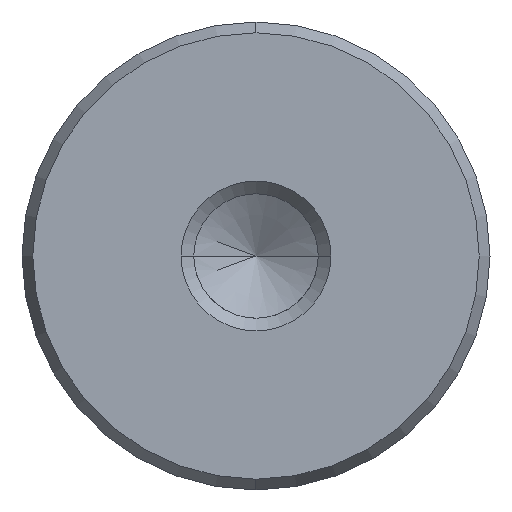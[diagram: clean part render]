
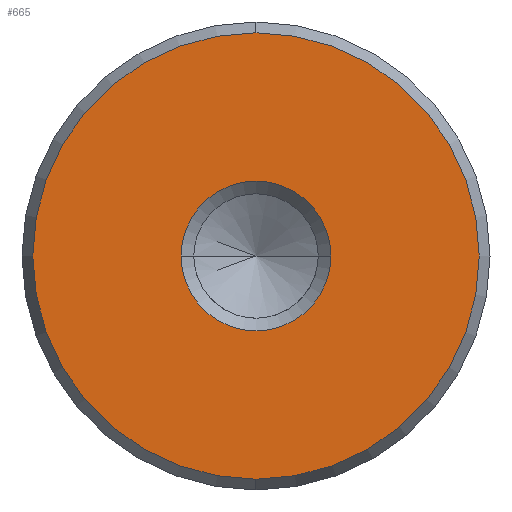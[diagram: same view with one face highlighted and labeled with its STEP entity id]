
A CAD part, left-side view. The second image highlights one B-rep face of the part: STEP entity #665.
In plain terms, the highlighted planar face has unit normal (-1, 0, 0).
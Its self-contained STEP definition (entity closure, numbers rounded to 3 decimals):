
#579=CARTESIAN_POINT('Vertex',(0.,0.,-11.923)) ;
#582=CARTESIAN_POINT('Axis2P3D Location',(0.,0.,0.)) ;
#586=CARTESIAN_POINT('Vertex',(0.,11.923,0.)) ;
#589=CARTESIAN_POINT('Axis2P3D Location',(0.,0.,0.)) ;
#593=CARTESIAN_POINT('Vertex',(0.,0.,11.923)) ;
#615=CARTESIAN_POINT('Axis2P3D Location',(0.,0.,0.)) ;
#619=CARTESIAN_POINT('Vertex',(0.,-11.923,0.)) ;
#622=CARTESIAN_POINT('Axis2P3D Location',(0.,0.,0.)) ;
#636=CARTESIAN_POINT('Axis2P3D Location',(0.,0.,0.)) ;
#647=CARTESIAN_POINT('Axis2P3D Location',(0.,0.,0.)) ;
#651=CARTESIAN_POINT('Vertex',(0.,4.,0.)) ;
#653=CARTESIAN_POINT('Vertex',(0.,-4.,0.)) ;
#656=CARTESIAN_POINT('Axis2P3D Location',(0.,0.,0.)) ;
#583=DIRECTION('Axis2P3D Direction',(1.,0.,-0.)) ;
#590=DIRECTION('Axis2P3D Direction',(1.,0.,-0.)) ;
#616=DIRECTION('Axis2P3D Direction',(1.,0.,-0.)) ;
#623=DIRECTION('Axis2P3D Direction',(1.,0.,-0.)) ;
#637=DIRECTION('Axis2P3D Direction',(1.,0.,-0.)) ;
#638=DIRECTION('Axis2P3D XDirection',(-0.,0.,-1.)) ;
#648=DIRECTION('Axis2P3D Direction',(1.,0.,-0.)) ;
#657=DIRECTION('Axis2P3D Direction',(1.,0.,-0.)) ;
#584=AXIS2_PLACEMENT_3D('Circle Axis2P3D',#582,#583,$) ;
#591=AXIS2_PLACEMENT_3D('Circle Axis2P3D',#589,#590,$) ;
#617=AXIS2_PLACEMENT_3D('Circle Axis2P3D',#615,#616,$) ;
#624=AXIS2_PLACEMENT_3D('Circle Axis2P3D',#622,#623,$) ;
#639=AXIS2_PLACEMENT_3D('Plane Axis2P3D',#636,#637,#638) ;
#649=AXIS2_PLACEMENT_3D('Circle Axis2P3D',#647,#648,$) ;
#658=AXIS2_PLACEMENT_3D('Circle Axis2P3D',#656,#657,$) ;
#642=ORIENTED_EDGE('',*,*,#588,.F.) ;
#643=ORIENTED_EDGE('',*,*,#626,.F.) ;
#644=ORIENTED_EDGE('',*,*,#621,.F.) ;
#645=ORIENTED_EDGE('',*,*,#595,.F.) ;
#662=ORIENTED_EDGE('',*,*,#655,.T.) ;
#663=ORIENTED_EDGE('',*,*,#660,.T.) ;
#664=FACE_BOUND('',#661,.T.) ;
#665=ADVANCED_FACE('720-25x355',(#646,#664),#640,.F.) ;
#585=CIRCLE('generated circle',#584,11.923) ;
#592=CIRCLE('generated circle',#591,11.923) ;
#618=CIRCLE('generated circle',#617,11.923) ;
#625=CIRCLE('generated circle',#624,11.923) ;
#650=CIRCLE('generated circle',#649,4.) ;
#659=CIRCLE('generated circle',#658,4.) ;
#588=EDGE_CURVE('',#580,#587,#585,.T.) ;
#595=EDGE_CURVE('',#587,#594,#592,.T.) ;
#621=EDGE_CURVE('',#594,#620,#618,.T.) ;
#626=EDGE_CURVE('',#620,#580,#625,.T.) ;
#655=EDGE_CURVE('',#652,#654,#650,.T.) ;
#660=EDGE_CURVE('',#654,#652,#659,.T.) ;
#641=EDGE_LOOP('',(#642,#643,#644,#645)) ;
#661=EDGE_LOOP('',(#662,#663)) ;
#646=FACE_OUTER_BOUND('',#641,.T.) ;
#640=PLANE('Plane',#639) ;
#580=VERTEX_POINT('',#579) ;
#587=VERTEX_POINT('',#586) ;
#594=VERTEX_POINT('',#593) ;
#620=VERTEX_POINT('',#619) ;
#652=VERTEX_POINT('',#651) ;
#654=VERTEX_POINT('',#653) ;
